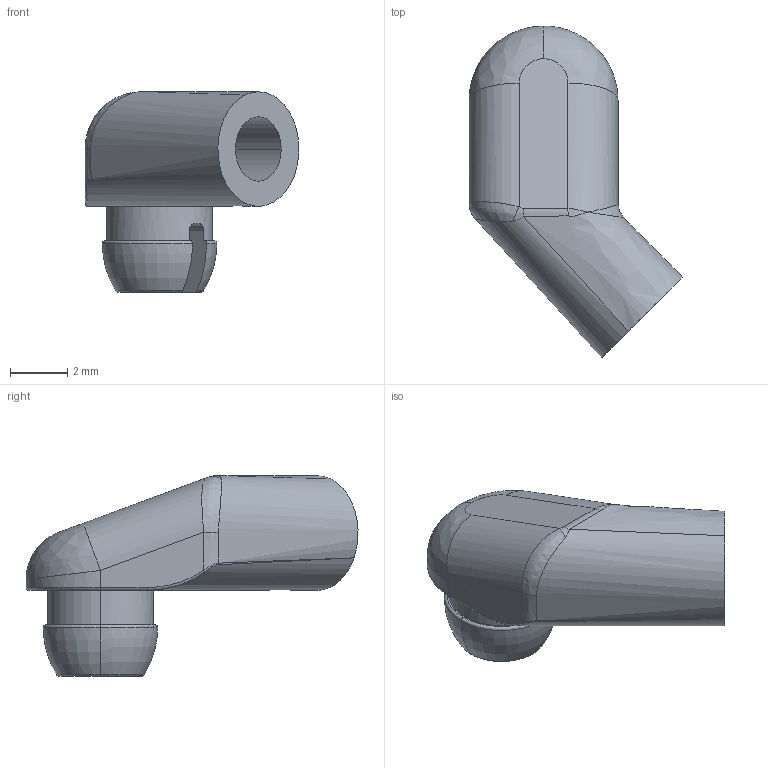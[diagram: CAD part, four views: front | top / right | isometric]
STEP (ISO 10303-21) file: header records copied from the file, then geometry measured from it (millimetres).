
FILE_DESCRIPTION (( 'STEP AP203' ), '1' );
FILE_NAME ('Lego Character - Right Arm.STEP', '2015-12-11T18:39:15', ( '' ), ( '' ), 'SwSTEP 2.0', 'SolidWorks 2014', '' );
FILE_SCHEMA (( 'CONFIG_CONTROL_DESIGN' ));
Length unit declared in the file: millimetre
Products named in the file (2): Lego Character - Right Arm
Bounding box: 7.46 x 11.59 x 7 mm (x, y, z)
Volume: 146.1 mm3; surface area: 260.3 mm2
Topology: 1 solids, 1 shells, 52 faces, 136 edges, 88 vertices
Faces by surface type: bspline 16, cylinder 14, plane 12, torus 10
Entity records: 2659 total; most frequent: CARTESIAN_POINT 1339, ORIENTED_EDGE 272, DIRECTION 215, EDGE_CURVE 136, AXIS2_PLACEMENT_3D 91, VERTEX_POINT 88, EDGE_LOOP 54, CIRCLE 53
